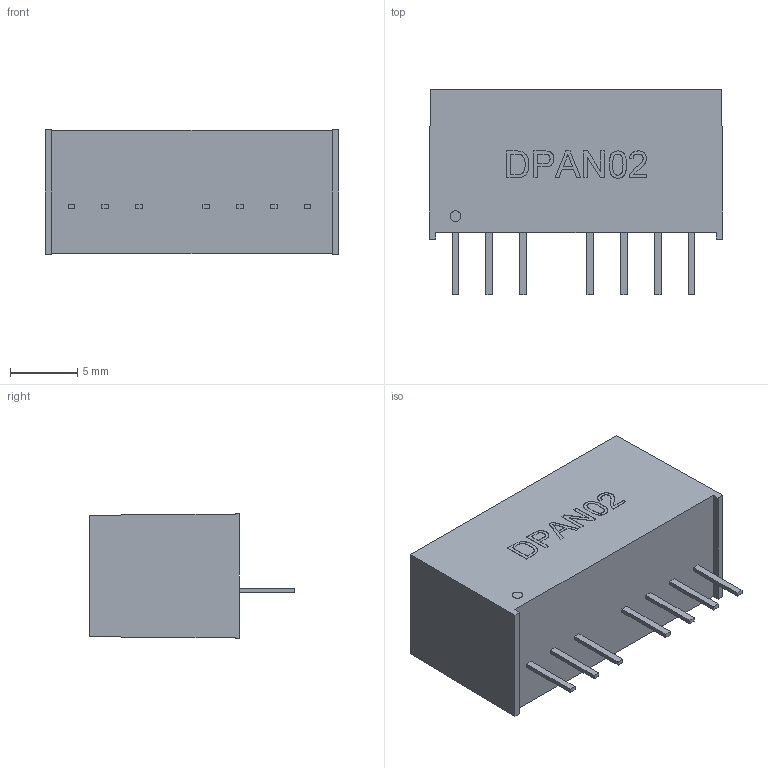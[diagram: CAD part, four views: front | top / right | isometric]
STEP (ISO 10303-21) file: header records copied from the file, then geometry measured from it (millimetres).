
FILE_DESCRIPTION (( 'STEP AP203' ), '1' );
FILE_NAME ('DPAN02 2020.05.26.STEP', '2020-05-26T06:36:24', ( '' ), ( '' ), 'SwSTEP 2.0', 'SolidWorks 2017', '' );
FILE_SCHEMA (( 'CONFIG_CONTROL_DESIGN' ));
Length unit declared in the file: millimetre
Products named in the file (2): DPAN02 2020.05.26
Bounding box: 21.8 x 15.2 x 9.2 mm (x, y, z)
Volume: 2102.1 mm3; surface area: 1120.1 mm2
Topology: 1 solids, 1 shells, 132 faces, 336 edges, 224 vertices
Faces by surface type: plane 95, bspline 35, cylinder 2
Entity records: 5865 total; most frequent: CARTESIAN_POINT 2745, ORIENTED_EDGE 672, DIRECTION 468, EDGE_CURVE 336, VECTOR 262, LINE 262, VERTEX_POINT 224, EDGE_LOOP 150
